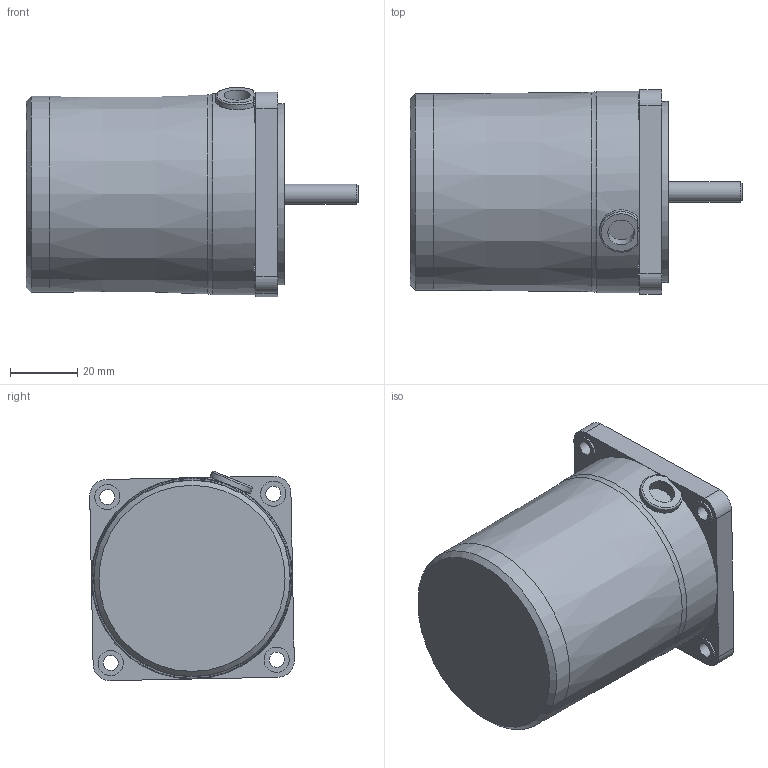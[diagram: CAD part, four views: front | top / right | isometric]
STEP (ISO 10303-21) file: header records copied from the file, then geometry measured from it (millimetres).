
FILE_DESCRIPTION((''),'2;1');
FILE_NAME('D:\STP파일\6W MOTOR\S6I06S.stp','2013-05-20T15:45:50',('leebh'),(''),'Autodesk Inventor 2011','Autodesk Inventor 2011','');
FILE_SCHEMA(('AUTOMOTIVE_DESIGN { 1 0 10303 214 1 1 1 1 }'));
Length unit declared in the file: millimetre
Products named in the file (1): 부품1
Bounding box: 99 x 60.99 x 62.41 mm (x, y, z)
Volume: 209968.3 mm3; surface area: 23657.9 mm2
Topology: 1 solids, 2 shells, 76 faces, 189 edges, 123 vertices
Faces by surface type: plane 42, cylinder 29, cone 3, torus 2
Full cylindrical faces by diameter (mm): 4.5 x4, 6 x1, 7.5 x4, 8 x1, 10.1 x1, 25 x1, 54 x1, 58.5 x1, 60 x1
Entity records: 2261 total; most frequent: CARTESIAN_POINT 424, DIRECTION 390, ORIENTED_EDGE 336, EDGE_CURVE 168, AXIS2_PLACEMENT_3D 150, VERTEX_POINT 121, EDGE_LOOP 115, VECTOR 90
